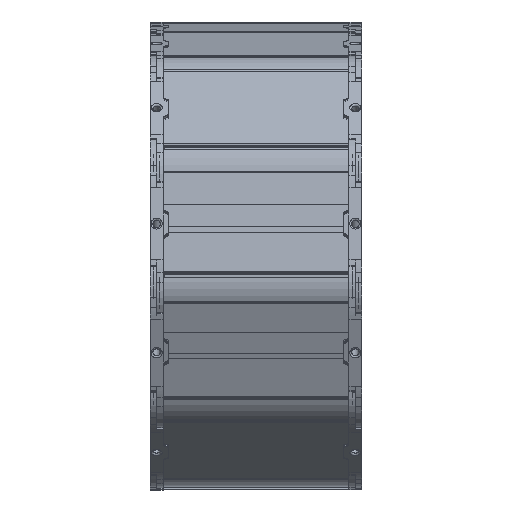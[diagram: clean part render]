
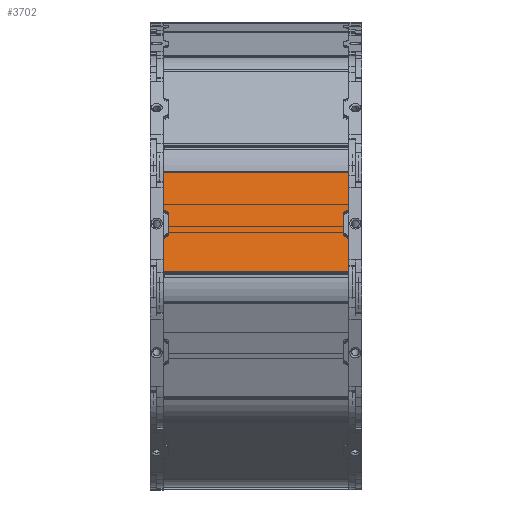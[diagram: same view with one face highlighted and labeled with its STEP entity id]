
A CAD part, front view. The second image highlights one B-rep face of the part: STEP entity #3702.
In plain terms, the highlighted planar face has unit normal (0, -0.984, 0.178) as drawn and (0, 0, 1) by its records, which use the part's own axes.
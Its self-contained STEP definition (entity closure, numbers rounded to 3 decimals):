
#2079=CARTESIAN_POINT('',(14.,15.696,103.));
#2080=VERTEX_POINT('',#2079);
#2087=CARTESIAN_POINT('',(14.,46.318,103.));
#2088=VERTEX_POINT('',#2087);
#2089=CARTESIAN_POINT('',(14.,15.696,103.));
#2090=DIRECTION('',(0.,1.0,0.));
#2091=VECTOR('',#2090,30.622);
#2092=LINE('',#2089,#2091);
#2093=EDGE_CURVE('',#2080,#2088,#2092,.T.);
#2198=CARTESIAN_POINT('',(14.,-53.617,103.));
#2199=VERTEX_POINT('',#2198);
#2206=CARTESIAN_POINT('',(14.,-15.345,103.));
#2207=VERTEX_POINT('',#2206);
#2208=CARTESIAN_POINT('',(14.,-53.617,103.));
#2209=DIRECTION('',(0.,1.0,0.));
#2210=VECTOR('',#2209,38.272);
#2211=LINE('',#2208,#2210);
#2212=EDGE_CURVE('',#2199,#2207,#2211,.T.);
#2625=CARTESIAN_POINT('',(214.,-15.345,103.));
#2626=VERTEX_POINT('',#2625);
#2633=CARTESIAN_POINT('',(214.,-46.318,103.));
#2634=VERTEX_POINT('',#2633);
#2635=CARTESIAN_POINT('',(214.,-15.345,103.));
#2636=DIRECTION('',(0.,-1.0,0.));
#2637=VECTOR('',#2636,30.973);
#2638=LINE('',#2635,#2637);
#2639=EDGE_CURVE('',#2626,#2634,#2638,.T.);
#2975=CARTESIAN_POINT('',(214.,52.71,103.));
#2976=VERTEX_POINT('',#2975);
#2977=CARTESIAN_POINT('',(214.,15.696,103.));
#2978=VERTEX_POINT('',#2977);
#2979=CARTESIAN_POINT('',(214.,52.71,103.));
#2980=DIRECTION('',(0.,-1.0,0.));
#2981=VECTOR('',#2980,37.013);
#2982=LINE('',#2979,#2981);
#2983=EDGE_CURVE('',#2976,#2978,#2982,.T.);
#3076=CARTESIAN_POINT('',(19.5,-10.668,103.));
#3077=VERTEX_POINT('',#3076);
#3143=CARTESIAN_POINT('',(19.5,10.668,103.));
#3144=VERTEX_POINT('',#3143);
#3151=CARTESIAN_POINT('',(19.5,12.521,103.));
#3152=VERTEX_POINT('',#3151);
#3153=CARTESIAN_POINT('',(19.5,12.521,103.));
#3154=DIRECTION('',(0.,-1.0,0.));
#3155=VECTOR('',#3154,1.853);
#3156=LINE('',#3153,#3155);
#3157=EDGE_CURVE('',#3152,#3144,#3156,.T.);
#3259=CARTESIAN_POINT('',(19.5,-12.86,103.));
#3260=VERTEX_POINT('',#3259);
#3267=CARTESIAN_POINT('',(19.5,-10.668,103.));
#3268=DIRECTION('',(0.,-1.0,0.));
#3269=VECTOR('',#3268,2.192);
#3270=LINE('',#3267,#3269);
#3271=EDGE_CURVE('',#3077,#3260,#3270,.T.);
#3283=CARTESIAN_POINT('',(208.5,10.668,103.));
#3284=VERTEX_POINT('',#3283);
#3347=CARTESIAN_POINT('',(208.5,-10.668,103.));
#3348=VERTEX_POINT('',#3347);
#3355=CARTESIAN_POINT('',(208.5,-12.86,103.));
#3356=VERTEX_POINT('',#3355);
#3357=CARTESIAN_POINT('',(208.5,-12.86,103.));
#3358=DIRECTION('',(0.0,1.0,0.));
#3359=VECTOR('',#3358,2.192);
#3360=LINE('',#3357,#3359);
#3361=EDGE_CURVE('',#3356,#3348,#3360,.T.);
#3463=CARTESIAN_POINT('',(208.5,12.521,103.));
#3464=VERTEX_POINT('',#3463);
#3471=CARTESIAN_POINT('',(208.5,10.668,103.));
#3472=DIRECTION('',(0.0,1.0,0.));
#3473=VECTOR('',#3472,1.853);
#3474=LINE('',#3471,#3473);
#3475=EDGE_CURVE('',#3284,#3464,#3474,.T.);
#3492=CARTESIAN_POINT('',(14.,15.696,103.));
#3493=DIRECTION('',(0.866,-0.5,0.));
#3494=VECTOR('',#3493,6.351);
#3495=LINE('',#3492,#3494);
#3496=EDGE_CURVE('',#2080,#3152,#3495,.T.);
#3514=CARTESIAN_POINT('',(19.5,-12.86,103.));
#3515=DIRECTION('',(-0.911,-0.412,0.));
#3516=VECTOR('',#3515,6.035);
#3517=LINE('',#3514,#3516);
#3518=EDGE_CURVE('',#3260,#2207,#3517,.T.);
#3589=CARTESIAN_POINT('',(275.828,-44.04,103.));
#3590=DIRECTION('',(0.,0.,-1.0));
#3591=DIRECTION('',(-1.0,0.0,0.0));
#3592=AXIS2_PLACEMENT_3D('',#3589,#3590,#3591);
#3593=PLANE('',#3592);
#3594=CARTESIAN_POINT('',(20.,-9.345,103.));
#3595=VERTEX_POINT('',#3594);
#3596=CARTESIAN_POINT('',(18.,-9.345,103.));
#3597=DIRECTION('',(0.,0.,1.));
#3598=DIRECTION('',(0.866,-0.5,0.));
#3599=AXIS2_PLACEMENT_3D('',#3596,#3597,#3598);
#3600=CIRCLE('',#3599,2.0);
#3601=EDGE_CURVE('',#3077,#3595,#3600,.T.);
#3602=ORIENTED_EDGE('',*,*,#3601,.F.);
#3603=ORIENTED_EDGE('',*,*,#3271,.T.);
#3604=ORIENTED_EDGE('',*,*,#3518,.T.);
#3605=ORIENTED_EDGE('',*,*,#2212,.F.);
#3606=CARTESIAN_POINT('',(14.,-57.27,103.));
#3607=VERTEX_POINT('',#3606);
#3608=CARTESIAN_POINT('',(14.,-53.617,103.));
#3609=DIRECTION('',(0.,-1.0,0.));
#3610=VECTOR('',#3609,3.653);
#3611=LINE('',#3608,#3610);
#3612=EDGE_CURVE('',#2199,#3607,#3611,.T.);
#3613=ORIENTED_EDGE('',*,*,#3612,.T.);
#3614=CARTESIAN_POINT('',(214.,-57.27,103.));
#3615=VERTEX_POINT('',#3614);
#3616=CARTESIAN_POINT('',(214.,-57.27,103.));
#3617=DIRECTION('',(-1.0,0.0,0.0));
#3618=VECTOR('',#3617,200.);
#3619=LINE('',#3616,#3618);
#3620=EDGE_CURVE('',#3615,#3607,#3619,.T.);
#3621=ORIENTED_EDGE('',*,*,#3620,.F.);
#3622=CARTESIAN_POINT('',(214.,-57.27,103.));
#3623=DIRECTION('',(0.,1.0,0.));
#3624=VECTOR('',#3623,10.952);
#3625=LINE('',#3622,#3624);
#3626=EDGE_CURVE('',#3615,#2634,#3625,.T.);
#3627=ORIENTED_EDGE('',*,*,#3626,.T.);
#3628=ORIENTED_EDGE('',*,*,#2639,.F.);
#3629=CARTESIAN_POINT('',(214.,-15.345,103.));
#3630=DIRECTION('',(-0.911,0.412,0.));
#3631=VECTOR('',#3630,6.035);
#3632=LINE('',#3629,#3631);
#3633=EDGE_CURVE('',#2626,#3356,#3632,.T.);
#3634=ORIENTED_EDGE('',*,*,#3633,.T.);
#3635=ORIENTED_EDGE('',*,*,#3361,.T.);
#3636=CARTESIAN_POINT('',(208.,-9.345,103.));
#3637=VERTEX_POINT('',#3636);
#3638=CARTESIAN_POINT('',(210.,-9.345,103.));
#3639=DIRECTION('',(0.,0.,1.0));
#3640=DIRECTION('',(-0.866,-0.5,0.));
#3641=AXIS2_PLACEMENT_3D('',#3638,#3639,#3640);
#3642=CIRCLE('',#3641,2.0);
#3643=EDGE_CURVE('',#3637,#3348,#3642,.T.);
#3644=ORIENTED_EDGE('',*,*,#3643,.F.);
#3645=CARTESIAN_POINT('',(208.,9.345,103.));
#3646=VERTEX_POINT('',#3645);
#3647=CARTESIAN_POINT('',(208.,9.345,103.));
#3648=DIRECTION('',(0.0,-1.0,0.));
#3649=VECTOR('',#3648,18.691);
#3650=LINE('',#3647,#3649);
#3651=EDGE_CURVE('',#3646,#3637,#3650,.T.);
#3652=ORIENTED_EDGE('',*,*,#3651,.F.);
#3653=CARTESIAN_POINT('',(210.,9.345,103.));
#3654=DIRECTION('',(0.,0.,1.));
#3655=DIRECTION('',(-0.866,0.5,0.));
#3656=AXIS2_PLACEMENT_3D('',#3653,#3654,#3655);
#3657=CIRCLE('',#3656,2.0);
#3658=EDGE_CURVE('',#3284,#3646,#3657,.T.);
#3659=ORIENTED_EDGE('',*,*,#3658,.F.);
#3660=ORIENTED_EDGE('',*,*,#3475,.T.);
#3661=CARTESIAN_POINT('',(208.5,12.521,103.));
#3662=DIRECTION('',(0.866,0.5,0.));
#3663=VECTOR('',#3662,6.351);
#3664=LINE('',#3661,#3663);
#3665=EDGE_CURVE('',#3464,#2978,#3664,.T.);
#3666=ORIENTED_EDGE('',*,*,#3665,.T.);
#3667=ORIENTED_EDGE('',*,*,#2983,.F.);
#3668=CARTESIAN_POINT('',(14.,52.71,103.));
#3669=VERTEX_POINT('',#3668);
#3670=CARTESIAN_POINT('',(214.,52.71,103.));
#3671=DIRECTION('',(-1.0,0.0,0.0));
#3672=VECTOR('',#3671,200.);
#3673=LINE('',#3670,#3672);
#3674=EDGE_CURVE('',#2976,#3669,#3673,.T.);
#3675=ORIENTED_EDGE('',*,*,#3674,.T.);
#3676=CARTESIAN_POINT('',(14.,52.71,103.));
#3677=DIRECTION('',(0.,-1.0,0.));
#3678=VECTOR('',#3677,6.392);
#3679=LINE('',#3676,#3678);
#3680=EDGE_CURVE('',#3669,#2088,#3679,.T.);
#3681=ORIENTED_EDGE('',*,*,#3680,.T.);
#3682=ORIENTED_EDGE('',*,*,#2093,.F.);
#3683=ORIENTED_EDGE('',*,*,#3496,.T.);
#3684=ORIENTED_EDGE('',*,*,#3157,.T.);
#3685=CARTESIAN_POINT('',(20.,9.345,103.));
#3686=VERTEX_POINT('',#3685);
#3687=CARTESIAN_POINT('',(18.,9.345,103.));
#3688=DIRECTION('',(0.,0.,1.0));
#3689=DIRECTION('',(0.866,0.5,0.));
#3690=AXIS2_PLACEMENT_3D('',#3687,#3688,#3689);
#3691=CIRCLE('',#3690,2.0);
#3692=EDGE_CURVE('',#3686,#3144,#3691,.T.);
#3693=ORIENTED_EDGE('',*,*,#3692,.F.);
#3694=CARTESIAN_POINT('',(20.,-9.345,103.));
#3695=DIRECTION('',(0.,1.0,0.));
#3696=VECTOR('',#3695,18.691);
#3697=LINE('',#3694,#3696);
#3698=EDGE_CURVE('',#3595,#3686,#3697,.T.);
#3699=ORIENTED_EDGE('',*,*,#3698,.F.);
#3700=EDGE_LOOP('',(#3602,#3603,#3604,#3605,#3613,#3621,#3627,#3628,#3634,#3635,#3644,#3652,#3659,#3660,#3666,#3667,#3675,#3681,#3682,#3683,#3684,#3693,#3699));
#3701=FACE_OUTER_BOUND('',#3700,.T.);
#3702=ADVANCED_FACE('',(#3701),#3593,.F.);
